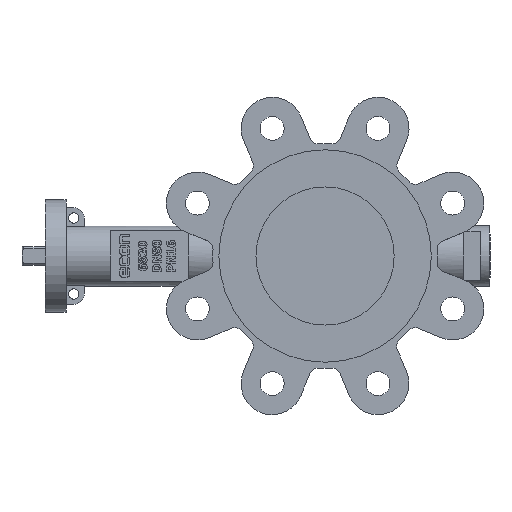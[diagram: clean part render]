
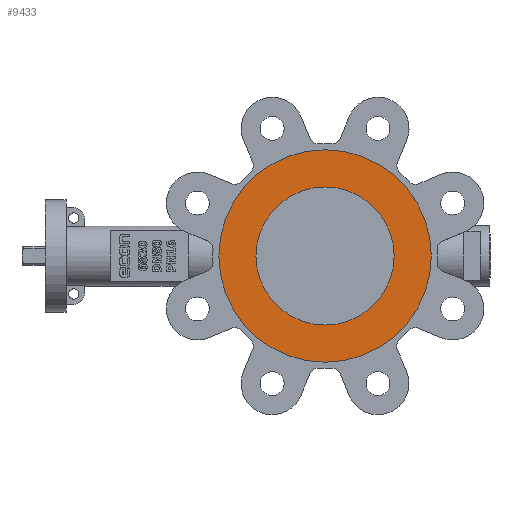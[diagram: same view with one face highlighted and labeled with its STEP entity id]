
A CAD part, left-side view. The second image highlights one B-rep face of the part: STEP entity #9433.
In plain terms, the highlighted planar face has unit normal (-1, 0, 0).
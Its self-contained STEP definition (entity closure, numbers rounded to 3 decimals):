
#231=FACE_BOUND('',#1800,.T.);
#481=PLANE('',#10015);
#1251=FACE_OUTER_BOUND('',#1799,.T.);
#1799=EDGE_LOOP('',(#8368));
#1800=EDGE_LOOP('',(#8369));
#3571=CIRCLE('',#9951,40.);
#3593=CIRCLE('',#10016,61.5);
#4429=VERTEX_POINT('',#16838);
#4460=VERTEX_POINT('',#16970);
#5706=EDGE_CURVE('',#4429,#4429,#3571,.T.);
#5764=EDGE_CURVE('',#4460,#4460,#3593,.T.);
#8368=ORIENTED_EDGE('',*,*,#5764,.T.);
#8369=ORIENTED_EDGE('',*,*,#5706,.T.);
#9433=ADVANCED_FACE('',(#1251,#231),#481,.F.);
#9951=AXIS2_PLACEMENT_3D('',#16839,#11759,#11760);
#10015=AXIS2_PLACEMENT_3D('',#16969,#11923,#11924);
#10016=AXIS2_PLACEMENT_3D('',#16971,#11925,#11926);
#11759=DIRECTION('center_axis',(1.,0.,0.));
#11760=DIRECTION('ref_axis',(0.,0.,-1.));
#11923=DIRECTION('center_axis',(1.,0.,0.));
#11924=DIRECTION('ref_axis',(0.,0.,-1.));
#11925=DIRECTION('center_axis',(-1.,0.,0.));
#11926=DIRECTION('ref_axis',(0.,-1.,0.));
#16838=CARTESIAN_POINT('',(-63.336,-25.435,40.));
#16839=CARTESIAN_POINT('Origin',(-63.336,-25.435,0.));
#16969=CARTESIAN_POINT('Origin',(-63.336,-25.435,0.));
#16970=CARTESIAN_POINT('',(-63.336,36.065,0.));
#16971=CARTESIAN_POINT('Origin',(-63.336,-25.435,0.));
